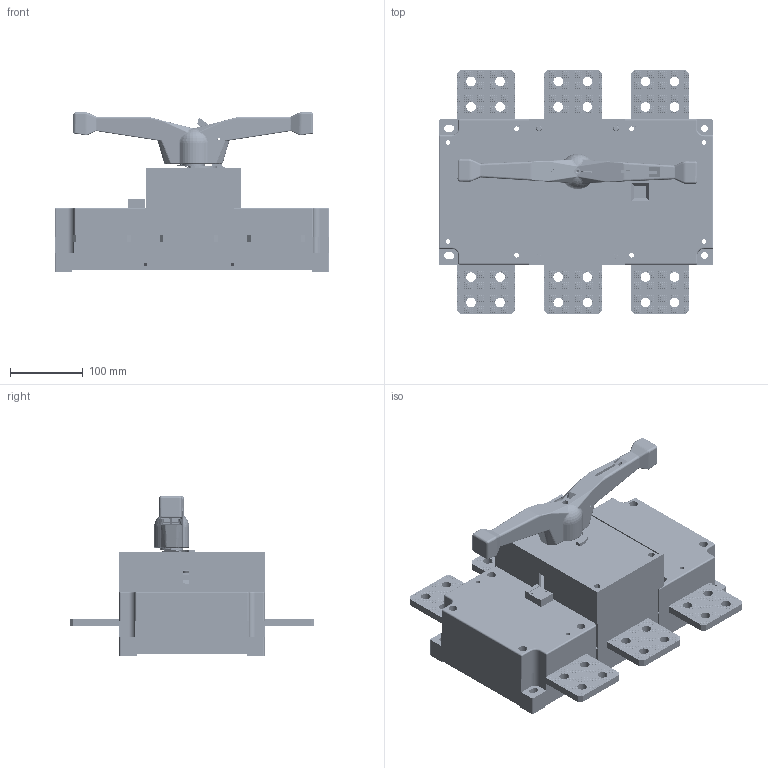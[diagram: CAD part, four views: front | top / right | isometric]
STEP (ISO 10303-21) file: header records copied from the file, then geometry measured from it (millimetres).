
FILE_DESCRIPTION (( 'STEP AP203' ), '1' );
FILE_NAME ('DNH8(HGL)-16003蚾饜尨砩芞.STEP', '2021-01-21T06:08:37', ( '' ), ( '' ), 'SwSTEP 2.0', 'SolidWorks 2019', '' );
FILE_SCHEMA (( 'CONFIG_CONTROL_DESIGN' ));
Length unit declared in the file: millimetre
Products named in the file (31): DNH8(HGL)-16003蚾饜尨砩芞; DNH8(HGL)-1250埴芛嶺裝; DNH8(HGL)-1250芢輸蚾饜; M6℅20ㄗ湍す菜粟菜ㄘ; 圆头螺丝M5×0.8×55(30); DNH8(HGL)-1250蛌砃啣; DNH8(HGL)-1250忒梟坶え; DNH8(HGL)-1250苤裔; DNH8(HGL)-1250紱釬粣; DNH8(HGL)-1250源粣; DNH8(HGL)-1250粣杶; DNH8(HGL)-1250忒梟; DNH8(HGL)-1600噙揖芛; DNH8(HGL)-1250埴芛嶺裝郪璃; DNH8(HGL)-1250粟銅え; DNH8(HGL)-1250縐銅; DNH8(HGL)-12503賑啣郪璃; DNH8(HGL)-1250尖头拉杆（装配用）; DNH8(HGL)-12503賑啣; DNH8(HGL)-1250隅弇种; DNH8(HGL)-1250揤啣; 圆头螺丝M5×0.8×45(24); DNH8(HGL)-1250菁釱; DNH8(HGL)-1250芢輸; DNH8(HGL)-1250揤銅; DNH8(HGL)-1250奻裔; DNH8(HGL)-1250賑啣粣; DNH8(HGL)-1250雄揖芛; DNH8(HGL)-1250埴倛菜え; 踡嘐蹟譫M5℅5; DNH8(HGL)-1250綻伎硌尨齪
Assembly tree (63 placements, depth 3):
  DNH8(HGL)-16003蚾饜尨砩芞
    DNH8(HGL)-1250菁釱
    DNH8(HGL)-1250奻裔
    DNH8(HGL)-1600噙揖芛  x6
    M6℅20ㄗ湍す菜粟菜ㄘ  x12
    DNH8(HGL)-1250苤裔
    DNH8(HGL)-1250芢輸蚾饜
      DNH8(HGL)-1250芢輸
      DNH8(HGL)-1250粟銅え  x6
      DNH8(HGL)-1250雄揖芛  x6
    DNH8(HGL)-1250紱釬粣
    DNH8(HGL)-1250隅弇种
    DNH8(HGL)-1250綻伎硌尨齪
    DNH8(HGL)-1250賑啣粣
    DNH8(HGL)-1250尖头拉杆（装配用）
    DNH8(HGL)-1250蛌砃啣
    DNH8(HGL)-1250忒梟
    DNH8(HGL)-1250忒梟坶え
    DNH8(HGL)-1250揤啣  x2
    DNH8(HGL)-1250揤銅
    DNH8(HGL)-1250埴芛嶺裝
    DNH8(HGL)-1250埴芛嶺裝郪璃
    DNH8(HGL)-1250埴倛菜え  x2
    DNH8(HGL)-1250粣杶
    DNH8(HGL)-12503賑啣郪璃
      DNH8(HGL)-1250源粣
      DNH8(HGL)-12503賑啣
    DNH8(HGL)-1250縐銅
    圆头螺丝M5×0.8×45(24)  x2
    圆头螺丝M5×0.8×55(30)  x2
    踡嘐蹟譫M5℅5  x4
Bounding box: 378 x 336.2 x 219.74 mm (x, y, z)
Volume: 3754814.2 mm3; surface area: 1234082.6 mm2
Topology: 65 solids, 65 shells, 38185 faces, 94636 edges, 62691 vertices
Faces by surface type: plane 36066, cylinder 1730, bspline 162, cone 141, torus 76, sphere 10
Entity records: 276553 total; most frequent: CARTESIAN_POINT 69773, ORIENTED_EDGE 42512, DIRECTION 38803, EDGE_CURVE 21256, LINE 18955, VECTOR 18955, VERTEX_POINT 13999, AXIS2_PLACEMENT_3D 9924
